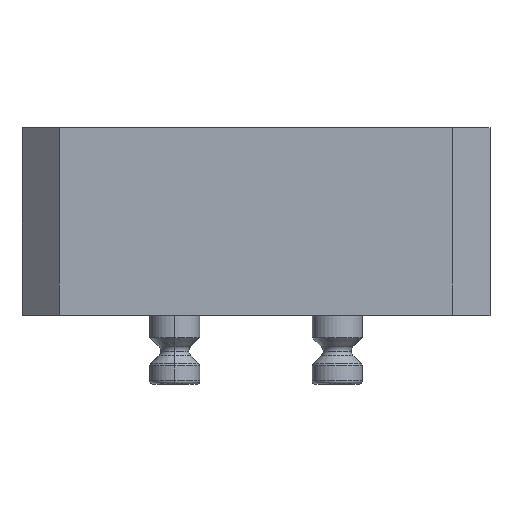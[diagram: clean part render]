
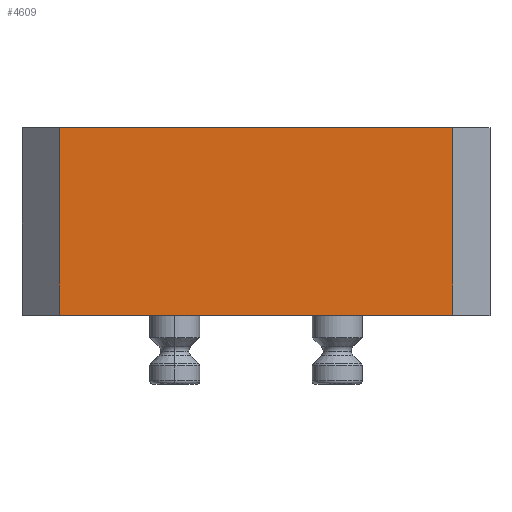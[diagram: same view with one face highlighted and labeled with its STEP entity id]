
A CAD part, top view. The second image highlights one B-rep face of the part: STEP entity #4609.
In plain terms, the highlighted planar face has unit normal (0, 0, 1).
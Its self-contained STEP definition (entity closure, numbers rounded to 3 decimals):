
#31 = VECTOR ( 'NONE', #4221, 1000. ) ;
#162 = VECTOR ( 'NONE', #6033, 1000. ) ;
#197 = AXIS2_PLACEMENT_3D ( 'NONE', #5916, #5906, #5905 ) ;
#888 = VECTOR ( 'NONE', #6498, 1000. ) ;
#944 = VECTOR ( 'NONE', #6632, 1000. ) ;
#1541 = CARTESIAN_POINT ( 'NONE',  ( -63., 0., 58. ) ) ;
#1568 = CARTESIAN_POINT ( 'NONE',  ( 63., 0., 58. ) ) ;
#1572 = CARTESIAN_POINT ( 'NONE',  ( 63., 60., 58. ) ) ;
#3161 = VERTEX_POINT ( 'NONE', #1572 ) ;
#3164 = VERTEX_POINT ( 'NONE', #1568 ) ;
#3186 = VERTEX_POINT ( 'NONE', #1541 ) ;
#3969 = CARTESIAN_POINT ( 'NONE',  ( -63., 60., 58. ) ) ;
#4221 = DIRECTION ( 'NONE',  ( 0., -1., 0. ) ) ;
#4223 = CARTESIAN_POINT ( 'NONE',  ( -63., 60., 58. ) ) ;
#4224 = LINE ( 'NONE', #4223, #31 ) ;
#4609 = ADVANCED_FACE ( 'NONE', ( #5956 ), #5924, .F. ) ;
#4638 = EDGE_CURVE ( 'NONE', #3164, #3161, #6036, .T. ) ;
#4732 = EDGE_CURVE ( 'NONE', #5282, #3186, #4224, .T. ) ;
#4935 = ORIENTED_EDGE ( 'NONE', *, *, #4638, .T. ) ;
#4936 = ORIENTED_EDGE ( 'NONE', *, *, #4732, .T. ) ;
#4938 = ORIENTED_EDGE ( 'NONE', *, *, #5588, .T. ) ;
#5013 = EDGE_LOOP ( 'NONE', ( #5047, #4936, #4938, #4935 ) ) ;
#5047 = ORIENTED_EDGE ( 'NONE', *, *, #5551, .F. ) ;
#5282 = VERTEX_POINT ( 'NONE', #3969 ) ;
#5551 = EDGE_CURVE ( 'NONE', #5282, #3161, #6636, .T. ) ;
#5588 = EDGE_CURVE ( 'NONE', #3186, #3164, #6500, .T. ) ;
#5905 = DIRECTION ( 'NONE',  ( 0., 1., 0. ) ) ;
#5906 = DIRECTION ( 'NONE',  ( 0., 0., -1. ) ) ;
#5916 = CARTESIAN_POINT ( 'NONE',  ( -75., 60., 58. ) ) ;
#5924 = PLANE ( 'NONE',  #197 ) ;
#5956 = FACE_OUTER_BOUND ( 'NONE', #5013, .T. ) ;
#6033 = DIRECTION ( 'NONE',  ( 0., 1., 0. ) ) ;
#6035 = CARTESIAN_POINT ( 'NONE',  ( 63., 60., 58. ) ) ;
#6036 = LINE ( 'NONE', #6035, #162 ) ;
#6498 = DIRECTION ( 'NONE',  ( 1., 0., 0. ) ) ;
#6499 = CARTESIAN_POINT ( 'NONE',  ( -75., 0., 58. ) ) ;
#6500 = LINE ( 'NONE', #6499, #888 ) ;
#6632 = DIRECTION ( 'NONE',  ( 1., 0., 0. ) ) ;
#6635 = CARTESIAN_POINT ( 'NONE',  ( -75., 60., 58. ) ) ;
#6636 = LINE ( 'NONE', #6635, #944 ) ;
